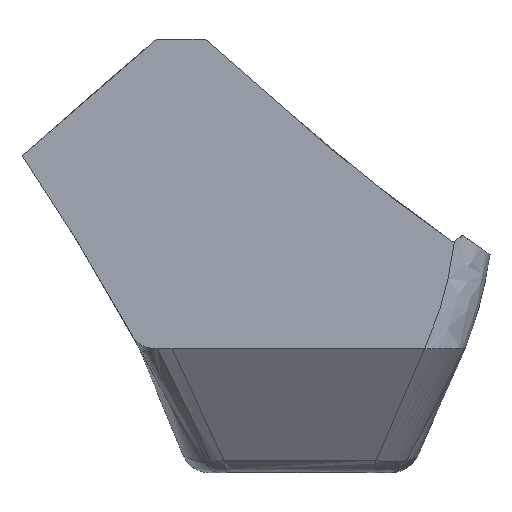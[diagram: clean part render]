
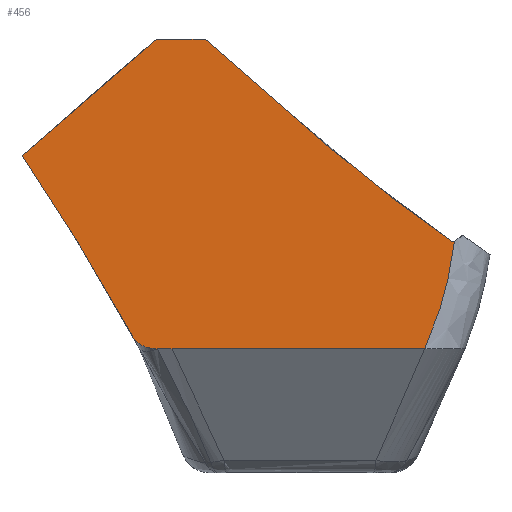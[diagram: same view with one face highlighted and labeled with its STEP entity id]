
A CAD part, front view. The second image highlights one B-rep face of the part: STEP entity #456.
In plain terms, the highlighted planar face has unit normal (0, -1, 0).
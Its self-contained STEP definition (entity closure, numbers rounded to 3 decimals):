
#41 = VERTEX_POINT('',#42);
#42 = CARTESIAN_POINT('',(-12.404,-18.15,1.143));
#71 = EDGE_CURVE('',#41,#72,#74,.T.);
#72 = VERTEX_POINT('',#73);
#73 = CARTESIAN_POINT('',(-11.051,-18.15,1.144));
#74 = LINE('',#75,#76);
#75 = CARTESIAN_POINT('',(-1.165,-18.15,1.147));
#76 = VECTOR('',#77,1.);
#77 = DIRECTION('',(1.,0.,0.));
#414 = EDGE_CURVE('',#72,#415,#417,.T.);
#415 = VERTEX_POINT('',#416);
#416 = CARTESIAN_POINT('',(12.152,-18.15,1.152));
#417 = LINE('',#418,#419);
#418 = CARTESIAN_POINT('',(-1.165,-18.15,1.147));
#419 = VECTOR('',#420,1.);
#420 = DIRECTION('',(1.,0.,0.));
#456 = ADVANCED_FACE('',(#457),#557,.F.);
#457 = FACE_BOUND('',#458,.F.);
#458 = EDGE_LOOP('',(#459,#460,#475,#484,#491,#499,#508,#515,#524,#556)
  );
#459 = ORIENTED_EDGE('',*,*,#71,.F.);
#460 = ORIENTED_EDGE('',*,*,#461,.F.);
#461 = EDGE_CURVE('',#462,#41,#464,.T.);
#462 = VERTEX_POINT('',#463);
#463 = CARTESIAN_POINT('',(-14.642,-18.15,2.229));
#464 = B_SPLINE_CURVE_WITH_KNOTS('',9,(#465,#466,#467,#468,#469,#470,
    #471,#472,#473,#474),.UNSPECIFIED.,.F.,.F.,(10,10),(0.,1.),
  .PIECEWISE_BEZIER_KNOTS.);
#465 = CARTESIAN_POINT('',(-14.642,-18.15,2.229));
#466 = CARTESIAN_POINT('',(-14.503,-18.15,1.974));
#467 = CARTESIAN_POINT('',(-14.316,-18.15,1.745));
#468 = CARTESIAN_POINT('',(-14.089,-18.15,1.551));
#469 = CARTESIAN_POINT('',(-13.833,-18.15,1.397));
#470 = CARTESIAN_POINT('',(-13.559,-18.15,1.284));
#471 = CARTESIAN_POINT('',(-13.274,-18.15,1.207));
#472 = CARTESIAN_POINT('',(-12.985,-18.15,1.162));
#473 = CARTESIAN_POINT('',(-12.695,-18.15,1.143));
#474 = CARTESIAN_POINT('',(-12.404,-18.15,1.143));
#475 = ORIENTED_EDGE('',*,*,#476,.F.);
#476 = EDGE_CURVE('',#477,#462,#479,.T.);
#477 = VERTEX_POINT('',#478);
#478 = CARTESIAN_POINT('',(-24.821,-18.15,18.864));
#479 = B_SPLINE_CURVE_WITH_KNOTS('',3,(#480,#481,#482,#483),
  .UNSPECIFIED.,.F.,.F.,(4,4),(0.,1.),.PIECEWISE_BEZIER_KNOTS.);
#480 = CARTESIAN_POINT('',(-24.821,-18.15,18.864));
#481 = CARTESIAN_POINT('',(-18.718,-18.15,9.762));
#482 = CARTESIAN_POINT('',(-13.334,-18.15,0.544));
#483 = CARTESIAN_POINT('',(-9.093,-18.15,-8.856));
#484 = ORIENTED_EDGE('',*,*,#485,.F.);
#485 = EDGE_CURVE('',#486,#477,#488,.T.);
#486 = VERTEX_POINT('',#487);
#487 = CARTESIAN_POINT('',(-12.496,-18.15,29.545));
#488 = B_SPLINE_CURVE_WITH_KNOTS('',1,(#489,#490),.UNSPECIFIED.,.F.,.F.,
  (2,2),(0.,19.293),.PIECEWISE_BEZIER_KNOTS.);
#489 = CARTESIAN_POINT('',(-10.241,-18.15,31.499));
#490 = CARTESIAN_POINT('',(-24.821,-18.15,18.864));
#491 = ORIENTED_EDGE('',*,*,#492,.F.);
#492 = EDGE_CURVE('',#493,#486,#495,.T.);
#493 = VERTEX_POINT('',#494);
#494 = CARTESIAN_POINT('',(-8.,-18.15,29.545));
#495 = LINE('',#496,#497);
#496 = CARTESIAN_POINT('',(5.753,-18.15,29.545));
#497 = VECTOR('',#498,1.);
#498 = DIRECTION('',(-1.,0.,0.));
#499 = ORIENTED_EDGE('',*,*,#500,.F.);
#500 = EDGE_CURVE('',#501,#493,#503,.T.);
#501 = VERTEX_POINT('',#502);
#502 = CARTESIAN_POINT('',(14.707,-18.15,10.949));
#503 = B_SPLINE_CURVE_WITH_KNOTS('',3,(#504,#505,#506,#507),
  .UNSPECIFIED.,.F.,.F.,(4,4),(0.,1.),.PIECEWISE_BEZIER_KNOTS.);
#504 = CARTESIAN_POINT('',(14.707,-18.15,10.949));
#505 = CARTESIAN_POINT('',(6.028,-18.15,16.833));
#506 = CARTESIAN_POINT('',(-1.737,-18.15,24.131));
#507 = CARTESIAN_POINT('',(-10.241,-18.15,31.499));
#508 = ORIENTED_EDGE('',*,*,#509,.F.);
#509 = EDGE_CURVE('',#510,#501,#512,.T.);
#510 = VERTEX_POINT('',#511);
#511 = CARTESIAN_POINT('',(14.707,-18.15,10.946));
#512 = B_SPLINE_CURVE_WITH_KNOTS('',1,(#513,#514),.UNSPECIFIED.,.F.,.F.,
  (2,2),(0.,0.003),.PIECEWISE_BEZIER_KNOTS.);
#513 = CARTESIAN_POINT('',(14.707,-18.15,10.946));
#514 = CARTESIAN_POINT('',(14.707,-18.15,10.949));
#515 = ORIENTED_EDGE('',*,*,#516,.F.);
#516 = EDGE_CURVE('',#517,#510,#519,.T.);
#517 = VERTEX_POINT('',#518);
#518 = CARTESIAN_POINT('',(14.872,-18.15,10.991));
#519 = B_SPLINE_CURVE_WITH_KNOTS('',3,(#520,#521,#522,#523),
  .UNSPECIFIED.,.F.,.F.,(4,4),(0.,1.),.PIECEWISE_BEZIER_KNOTS.);
#520 = CARTESIAN_POINT('',(15.697,-18.15,11.489));
#521 = CARTESIAN_POINT('',(15.508,-18.15,11.624));
#522 = CARTESIAN_POINT('',(14.91,-18.15,10.878));
#523 = CARTESIAN_POINT('',(14.707,-18.15,10.946));
#524 = ORIENTED_EDGE('',*,*,#525,.F.);
#525 = EDGE_CURVE('',#415,#517,#526,.T.);
#526 = B_SPLINE_CURVE_WITH_KNOTS('',10,(#527,#528,#529,#530,#531,#532,
    #533,#534,#535,#536,#537,#538,#539,#540,#541,#542,#543,#544,#545,
    #546,#547,#548,#549,#550,#551,#552,#553,#554,#555),.UNSPECIFIED.,.F.
  ,.F.,(11,9,9,11),(-2.43,-1.877,9.57,
    9.999),.UNSPECIFIED.);
#527 = CARTESIAN_POINT('',(11.927,-18.15,0.646));
#528 = CARTESIAN_POINT('',(11.956,-18.15,0.711));
#529 = CARTESIAN_POINT('',(11.983,-18.15,0.772));
#530 = CARTESIAN_POINT('',(12.009,-18.15,0.831));
#531 = CARTESIAN_POINT('',(12.034,-18.15,0.886));
#532 = CARTESIAN_POINT('',(12.057,-18.15,0.938));
#533 = CARTESIAN_POINT('',(12.079,-18.15,0.987));
#534 = CARTESIAN_POINT('',(12.099,-18.15,1.033));
#535 = CARTESIAN_POINT('',(12.119,-18.15,1.076));
#536 = CARTESIAN_POINT('',(12.136,-18.15,1.115));
#537 = CARTESIAN_POINT('',(12.489,-18.15,1.907));
#538 = CARTESIAN_POINT('',(12.818,-18.15,
    2.688));
#539 = CARTESIAN_POINT('',(13.136,-18.15,3.501));
#540 = CARTESIAN_POINT('',(13.443,-18.15,
    4.357));
#541 = CARTESIAN_POINT('',(13.732,-18.15,5.254));
#542 = CARTESIAN_POINT('',(14.007,-18.15,
    6.222));
#543 = CARTESIAN_POINT('',(14.261,-18.15,7.256));
#544 = CARTESIAN_POINT('',(14.493,-18.15,
    8.388));
#545 = CARTESIAN_POINT('',(14.698,-18.15,9.625));
#546 = CARTESIAN_POINT('',(14.878,-18.15,11.042));
#547 = CARTESIAN_POINT('',(14.885,-18.15,11.094));
#548 = CARTESIAN_POINT('',(14.892,-18.15,11.146));
#549 = CARTESIAN_POINT('',(14.899,-18.15,11.2));
#550 = CARTESIAN_POINT('',(14.905,-18.15,11.255));
#551 = CARTESIAN_POINT('',(14.913,-18.15,11.31));
#552 = CARTESIAN_POINT('',(14.92,-18.15,11.366));
#553 = CARTESIAN_POINT('',(14.927,-18.15,11.423));
#554 = CARTESIAN_POINT('',(14.934,-18.15,11.481));
#555 = CARTESIAN_POINT('',(14.942,-18.15,11.54));
#556 = ORIENTED_EDGE('',*,*,#414,.F.);
#557 = PLANE('',#558);
#558 = AXIS2_PLACEMENT_3D('',#559,#560,#561);
#559 = CARTESIAN_POINT('',(-3.239,-18.15,9.425));
#560 = DIRECTION('',(0.,1.,0.));
#561 = DIRECTION('',(0.,0.,1.));
